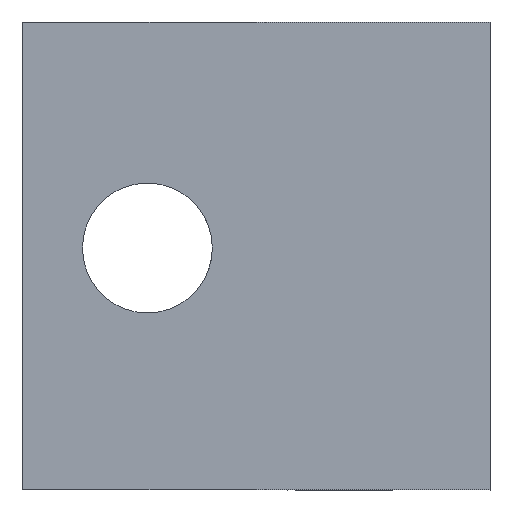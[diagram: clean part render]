
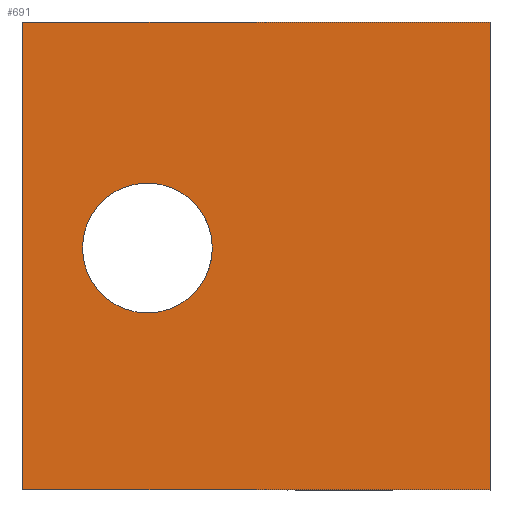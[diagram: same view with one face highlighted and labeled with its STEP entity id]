
A CAD part, left-side view. The second image highlights one B-rep face of the part: STEP entity #691.
In plain terms, the highlighted planar face has unit normal (-1, 0, 0).
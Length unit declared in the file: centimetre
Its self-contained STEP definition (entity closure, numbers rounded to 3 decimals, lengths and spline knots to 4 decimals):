
#31 = ORIENTED_EDGE ( 'NONE', *, *, #708, .T. ) ;
#36 = VECTOR ( 'NONE', #109, 100. ) ;
#66 = VERTEX_POINT ( 'NONE', #302 ) ;
#79 = VECTOR ( 'NONE', #730, 100. ) ;
#88 = CARTESIAN_POINT ( 'NONE',  ( 0., 0., 1000. ) ) ;
#89 = VERTEX_POINT ( 'NONE', #174 ) ;
#92 = FACE_BOUND ( 'NONE', #496, .T. ) ;
#101 = LINE ( 'NONE', #537, #36 ) ;
#109 = DIRECTION ( 'NONE',  ( 0., -1., 0. ) ) ;
#160 = AXIS2_PLACEMENT_3D ( 'NONE', #283, #458, #269 ) ;
#167 = DIRECTION ( 'NONE',  ( 0., -1., 0. ) ) ;
#174 = CARTESIAN_POINT ( 'NONE',  ( 0., 0., 1000. ) ) ;
#180 = AXIS2_PLACEMENT_3D ( 'NONE', #448, #452, #683 ) ;
#193 = EDGE_CURVE ( 'NONE', #508, #491, #596, .T. ) ;
#200 = CARTESIAN_POINT ( 'NONE',  ( 0., 732.013, 516.9967 ) ) ;
#206 = VECTOR ( 'NONE', #677, 100. ) ;
#215 = PLANE ( 'NONE',  #180 ) ;
#216 = VERTEX_POINT ( 'NONE', #459 ) ;
#225 = ORIENTED_EDGE ( 'NONE', *, *, #659, .F. ) ;
#269 = DIRECTION ( 'NONE',  ( 0., 0., -1. ) ) ;
#283 = CARTESIAN_POINT ( 'NONE',  ( 0., 732.013, 516.9967 ) ) ;
#302 = CARTESIAN_POINT ( 'NONE',  ( 0., 732.013, 378.2828 ) ) ;
#309 = VECTOR ( 'NONE', #167, 100. ) ;
#371 = VERTEX_POINT ( 'NONE', #464 ) ;
#392 = CARTESIAN_POINT ( 'NONE',  ( 0., 1000., 1000. ) ) ;
#428 = ORIENTED_EDGE ( 'NONE', *, *, #724, .T. ) ;
#441 = ORIENTED_EDGE ( 'NONE', *, *, #442, .F. ) ;
#442 = EDGE_CURVE ( 'NONE', #371, #89, #101, .T. ) ;
#448 = CARTESIAN_POINT ( 'NONE',  ( 0., 1000., 1000. ) ) ;
#452 = DIRECTION ( 'NONE',  ( 1., 0., 0. ) ) ;
#458 = DIRECTION ( 'NONE',  ( 1., 0., 0. ) ) ;
#459 = CARTESIAN_POINT ( 'NONE',  ( 0., 732.013, 655.7107 ) ) ;
#464 = CARTESIAN_POINT ( 'NONE',  ( 0., 1000., 1000. ) ) ;
#491 = VERTEX_POINT ( 'NONE', #706 ) ;
#494 = DIRECTION ( 'NONE',  ( 0., 0., -1. ) ) ;
#496 = EDGE_LOOP ( 'NONE', ( #742, #428 ) ) ;
#508 = VERTEX_POINT ( 'NONE', #559 ) ;
#510 = EDGE_LOOP ( 'NONE', ( #552, #225, #441, #31 ) ) ;
#511 = FACE_OUTER_BOUND ( 'NONE', #510, .T. ) ;
#525 = EDGE_CURVE ( 'NONE', #66, #216, #710, .T. ) ;
#537 = CARTESIAN_POINT ( 'NONE',  ( 0., 1000., 1000. ) ) ;
#552 = ORIENTED_EDGE ( 'NONE', *, *, #193, .T. ) ;
#559 = CARTESIAN_POINT ( 'NONE',  ( 0., 1000., 0. ) ) ;
#580 = CIRCLE ( 'NONE', #160, 138.714 ) ;
#589 = AXIS2_PLACEMENT_3D ( 'NONE', #200, #669, #494 ) ;
#596 = LINE ( 'NONE', #697, #309 ) ;
#625 = LINE ( 'NONE', #88, #79 ) ;
#630 = LINE ( 'NONE', #392, #206 ) ;
#659 = EDGE_CURVE ( 'NONE', #89, #491, #625, .T. ) ;
#669 = DIRECTION ( 'NONE',  ( 1., 0., 0. ) ) ;
#677 = DIRECTION ( 'NONE',  ( 0., 0., -1. ) ) ;
#683 = DIRECTION ( 'NONE',  ( 0., 0., -1. ) ) ;
#691 = ADVANCED_FACE ( 'NONE', ( #92, #511 ), #215, .F. ) ;
#697 = CARTESIAN_POINT ( 'NONE',  ( 0., 1000., 0. ) ) ;
#706 = CARTESIAN_POINT ( 'NONE',  ( 0., 0., 0. ) ) ;
#708 = EDGE_CURVE ( 'NONE', #371, #508, #630, .T. ) ;
#710 = CIRCLE ( 'NONE', #589, 138.714 ) ;
#724 = EDGE_CURVE ( 'NONE', #216, #66, #580, .T. ) ;
#730 = DIRECTION ( 'NONE',  ( 0., 0., -1. ) ) ;
#742 = ORIENTED_EDGE ( 'NONE', *, *, #525, .T. ) ;
